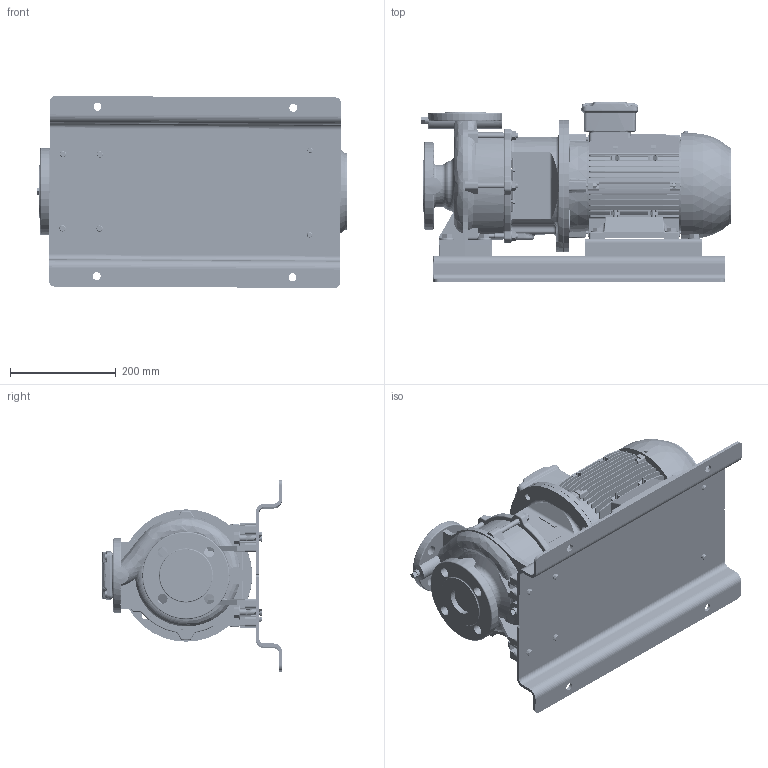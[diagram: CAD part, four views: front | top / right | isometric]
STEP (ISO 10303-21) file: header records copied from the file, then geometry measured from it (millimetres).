
FILE_DESCRIPTION (( 'STEP AP214' ), '1' );
FILE_NAME ('GSD2 32-125_3.0_(100L)_W21_BP.STEP', '2024-03-18T05:22:30', ( '' ), ( '' ), 'SwSTEP 2.0', 'SolidWorks 2019', '' );
FILE_SCHEMA (( 'AUTOMOTIVE_DESIGN' ));
Length unit declared in the file: millimetre
Products named in the file (11): Parametric Flat Washer_M10; N2S3 GSDA-232 F1-1832898-00; Parametric bolt_SFT-A305B; Parametric bolt_SFT-A253B; Parametric Flat Washer_M12; 32-125-100L; Parametric bolt_SFT-A259B; 100L ALIE3_W21T_B35; GSD2  32-125_3.0_(100L)_W21_BP; CGS11-5301_2_3_4_5_CGS11-5301; 140 x 32 - 271472023
Assembly tree (27 placements, depth 2):
  GSD2  32-125_3.0_(100L)_W21_BP
    32-125-100L
    100L ALIE3_W21T_B35
    N2S3 GSDA-232 F1-1832898-00
    CGS11-5301_2_3_4_5_CGS11-5301  x2
    140 x 32 - 271472023  x2
    Parametric bolt_SFT-A253B  x4
    Parametric bolt_SFT-A259B  x2
    Parametric bolt_SFT-A305B  x4
    Parametric Flat Washer_M10  x6
    Parametric Flat Washer_M12  x4
Bounding box: 586.3 x 341 x 362.87 mm (x, y, z)
Volume: 15603335.8 mm3; surface area: 1781743.4 mm2
Topology: 40 solids, 40 shells, 4248 faces, 11208 edges, 7280 vertices
Faces by surface type: plane 2355, cylinder 1138, torus 311, bspline 231, cone 195, sphere 18
Entity records: 189850 total; most frequent: CARTESIAN_POINT 86699, ORIENTED_EDGE 20054, DIRECTION 17909, EDGE_CURVE 10027, VERTEX_POINT 6521, VECTOR 6295, LINE 6295, AXIS2_PLACEMENT_3D 5807
